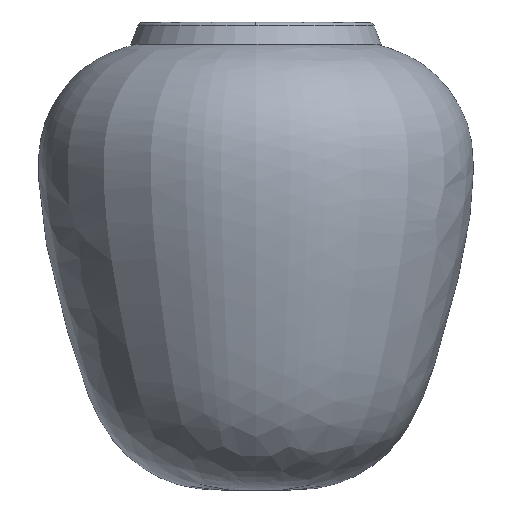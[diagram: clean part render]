
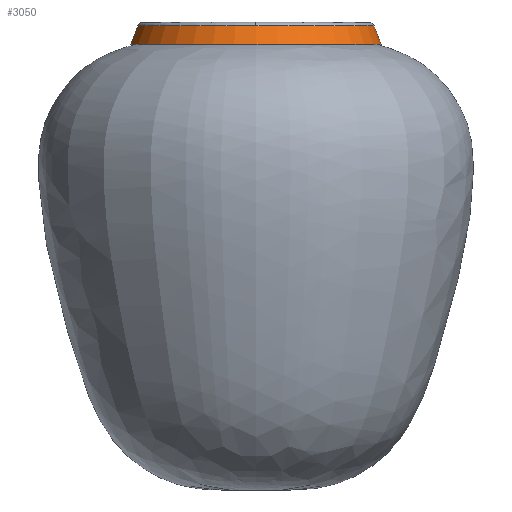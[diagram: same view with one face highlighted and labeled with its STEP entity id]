
A CAD part, top view. The second image highlights one B-rep face of the part: STEP entity #3050.
In plain terms, the highlighted conical face has half-angle 21 degrees and reference radius 55.801 mm.
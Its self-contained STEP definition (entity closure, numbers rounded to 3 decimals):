
#11 = EDGE_CURVE ( 'NONE', #8019, #5737, #455, .T. ) ;
#206 = CARTESIAN_POINT ( 'NONE',  ( -88.457, 73.664, 12.641 ) ) ;
#455 = CIRCLE ( 'NONE', #2817, 55.697 ) ;
#1335 = VECTOR ( 'NONE', #8861, 1000. ) ;
#1336 = CIRCLE ( 'NONE', #16925, 55.697 ) ;
#1939 = EDGE_CURVE ( 'NONE', #8019, #18145, #3757, .T. ) ;
#2362 = CARTESIAN_POINT ( 'NONE',  ( 19.804, 65.502, 12.641 ) ) ;
#2762 = ORIENTED_EDGE ( 'NONE', *, *, #1939, .F. ) ;
#2817 = AXIS2_PLACEMENT_3D ( 'NONE', #3554, #14462, #14640 ) ;
#3050 = ADVANCED_FACE ( 'NONE', ( #6884 ), #5401, .T. ) ;
#3554 = CARTESIAN_POINT ( 'NONE',  ( -35.893, 65.502, 12.641 ) ) ;
#3757 = LINE ( 'NONE', #9389, #4748 ) ;
#3866 = VERTEX_POINT ( 'NONE', #9471 ) ;
#3946 = DIRECTION ( 'NONE',  ( 0., -1., 0. ) ) ;
#4058 = VERTEX_POINT ( 'NONE', #2362 ) ;
#4062 = ORIENTED_EDGE ( 'NONE', *, *, #11, .T. ) ;
#4082 = ORIENTED_EDGE ( 'NONE', *, *, #5439, .T. ) ;
#4350 = DIRECTION ( 'NONE',  ( 0., 1., 0. ) ) ;
#4571 = ORIENTED_EDGE ( 'NONE', *, *, #18186, .T. ) ;
#4748 = VECTOR ( 'NONE', #15020, 1000. ) ;
#4898 = CARTESIAN_POINT ( 'NONE',  ( 19.908, 65.23, 12.641 ) ) ;
#5401 = CONICAL_SURFACE ( 'NONE', #15709, 55.802, 0.367 ) ;
#5439 = EDGE_CURVE ( 'NONE', #4058, #3866, #15877, .T. ) ;
#5737 = VERTEX_POINT ( 'NONE', #6826 ) ;
#5851 = CARTESIAN_POINT ( 'NONE',  ( -35.893, 65.502, 12.641 ) ) ;
#5886 = ORIENTED_EDGE ( 'NONE', *, *, #15059, .F. ) ;
#5945 = DIRECTION ( 'NONE',  ( 0., 1., 0. ) ) ;
#6037 = DIRECTION ( 'NONE',  ( 0., 0., 1. ) ) ;
#6826 = CARTESIAN_POINT ( 'NONE',  ( -35.893, 65.502, 68.338 ) ) ;
#6861 = DIRECTION ( 'NONE',  ( 0., 1., 0. ) ) ;
#6884 = FACE_OUTER_BOUND ( 'NONE', #17569, .T. ) ;
#7198 = CARTESIAN_POINT ( 'NONE',  ( -35.893, 73.664, 12.641 ) ) ;
#7208 = VERTEX_POINT ( 'NONE', #15696 ) ;
#7984 = ORIENTED_EDGE ( 'NONE', *, *, #13527, .F. ) ;
#8019 = VERTEX_POINT ( 'NONE', #9580 ) ;
#8126 = CIRCLE ( 'NONE', #12864, 52.564 ) ;
#8317 = DIRECTION ( 'NONE',  ( 0., 0., 1. ) ) ;
#8861 = DIRECTION ( 'NONE',  ( -0.358, 0.934, 0. ) ) ;
#9389 = CARTESIAN_POINT ( 'NONE',  ( -91.695, 65.23, 12.641 ) ) ;
#9471 = CARTESIAN_POINT ( 'NONE',  ( 16.67, 73.664, 12.641 ) ) ;
#9580 = CARTESIAN_POINT ( 'NONE',  ( -91.591, 65.502, 12.641 ) ) ;
#9829 = CIRCLE ( 'NONE', #10414, 52.564 ) ;
#10414 = AXIS2_PLACEMENT_3D ( 'NONE', #16019, #5945, #6037 ) ;
#11140 = CARTESIAN_POINT ( 'NONE',  ( -35.893, 65.23, 12.641 ) ) ;
#12731 = DIRECTION ( 'NONE',  ( 0., 0., -1. ) ) ;
#12864 = AXIS2_PLACEMENT_3D ( 'NONE', #7198, #4350, #8317 ) ;
#13527 = EDGE_CURVE ( 'NONE', #18145, #7208, #9829, .T. ) ;
#14462 = DIRECTION ( 'NONE',  ( 0., 1., 0. ) ) ;
#14640 = DIRECTION ( 'NONE',  ( 0., 0., 1. ) ) ;
#15020 = DIRECTION ( 'NONE',  ( 0.358, 0.934, 0. ) ) ;
#15059 = EDGE_CURVE ( 'NONE', #7208, #3866, #8126, .T. ) ;
#15696 = CARTESIAN_POINT ( 'NONE',  ( -35.893, 73.664, 65.205 ) ) ;
#15709 = AXIS2_PLACEMENT_3D ( 'NONE', #11140, #3946, #12731 ) ;
#15877 = LINE ( 'NONE', #4898, #1335 ) ;
#15919 = DIRECTION ( 'NONE',  ( 0., 0., 1. ) ) ;
#16019 = CARTESIAN_POINT ( 'NONE',  ( -35.893, 73.664, 12.641 ) ) ;
#16925 = AXIS2_PLACEMENT_3D ( 'NONE', #5851, #6861, #15919 ) ;
#17569 = EDGE_LOOP ( 'NONE', ( #2762, #4062, #4571, #4082, #5886, #7984 ) ) ;
#18145 = VERTEX_POINT ( 'NONE', #206 ) ;
#18186 = EDGE_CURVE ( 'NONE', #5737, #4058, #1336, .T. ) ;
